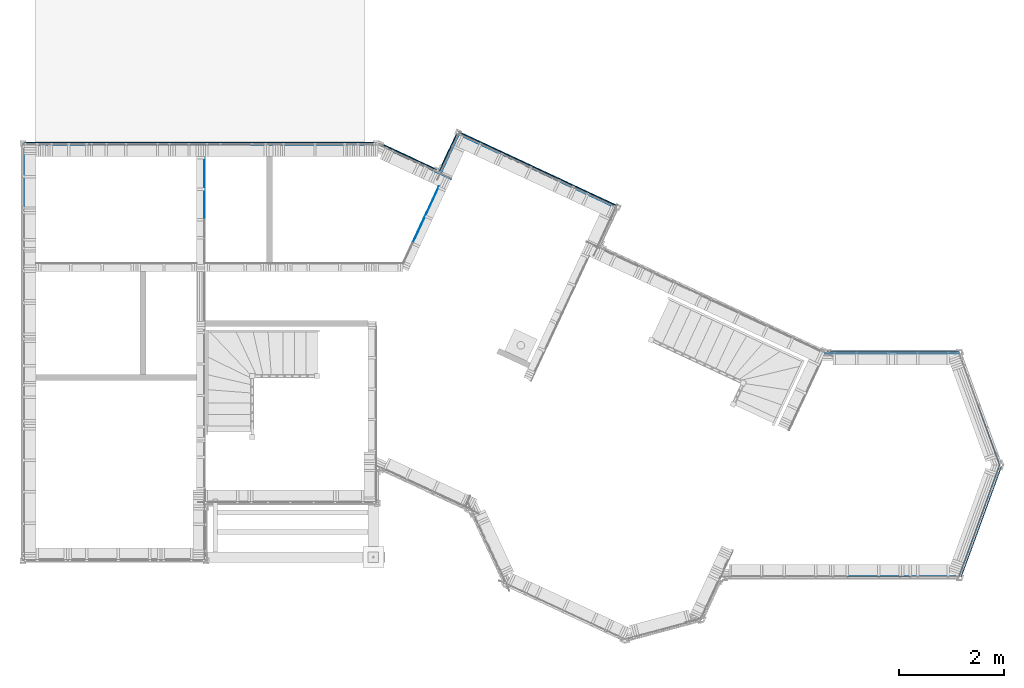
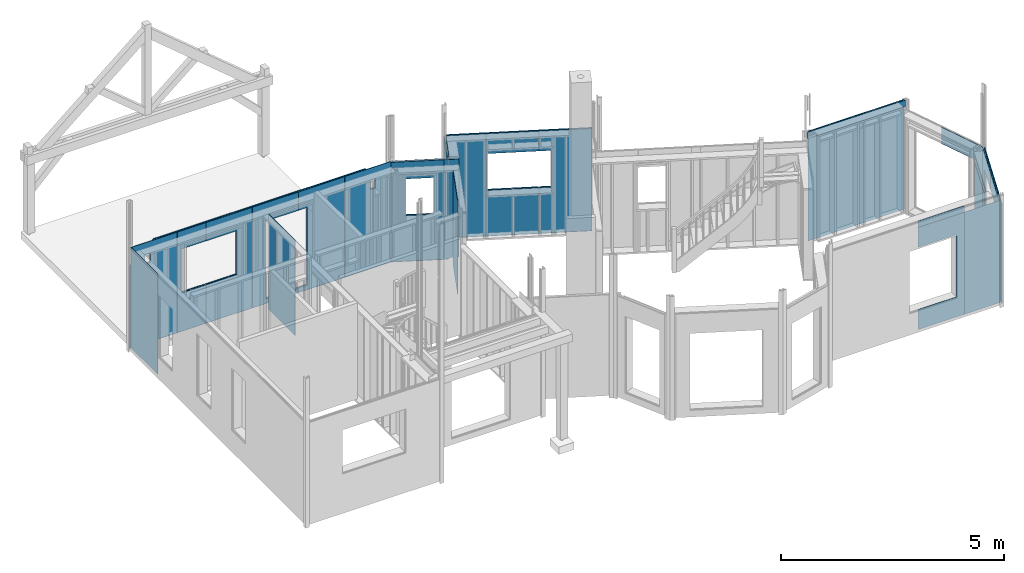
# One storey, part 26 of 34: 28 plates.
"""IFC2X3 building model written with IfcOpenShell, lengths in metres."""

from ifc_helpers import new_model, si_unit, direction, frame, origin_with_axes, place, context, subcontext, project, spatial, faceted_brep, material, element, save


model = new_model("IFC2X3")

# Units and contexts
model_context = context("Model", 3, precision=1e-06, world=origin_with_axes(), true_north=direction((0.0, 1.0, 0.0)))
body_context = subcontext(model_context, "Body", "Model", "MODEL_VIEW")
ifc_project = project(units=[si_unit("LENGTHUNIT", "METRE"), si_unit("AREAUNIT", "SQUARE_METRE"), si_unit("VOLUMEUNIT", "CUBIC_METRE"), si_unit("PLANEANGLEUNIT", "RADIAN")], contexts=[model_context])

# Site, building, storey
site_placement = place(None, origin_with_axes())
site = spatial("IfcSite", under=ifc_project, at=site_placement, CompositionType="ELEMENT")
building_placement = place(site_placement, origin_with_axes())
building = spatial("IfcBuilding", under=site, at=building_placement, Name="Building 1", CompositionType="ELEMENT")
storey_placement = place(building_placement, origin_with_axes())
storey = spatial("IfcBuildingStorey", under=building, at=storey_placement, Name="Rez de chaussée", CompositionType="ELEMENT", Elevation=0.0)

# Plates
ifc_material_1 = material(Name="Mélèze")
plate_1_placement = place(storey_placement, frame((7.317301, 7.6797433, -0.03), z_axis=(0.4226183, 0.9063078, 0.0), x_axis=(0.0, 0.0, 1.0)))
element("IfcPlate", 1, at=plate_1_placement, inside=storey, material=ifc_material_1, Name="Bardage", context=body_context, shape_type="Brep", body=[
    faceted_brep([(2.765, 0.5935712, -0.0105), (2.765, -0.5935712, -0.0105), (0.0, -0.5935712, -0.0105), (0.0, 0.5935712, -0.0105), (1.282, 0.3514288, -0.0105), (1.282, -0.2885712, -0.0105), (2.29, -0.2885712, -0.0105), (2.29, 0.3514288, -0.0105), (2.765, -0.5935712, 0.0105), (2.765, 0.5935712, 0.0105), (0.0, 0.5935712, 0.0105), (0.0, -0.5935712, 0.0105), (2.29, -0.2885712, 0.0105), (1.282, -0.2885712, 0.0105), (1.282, 0.3514288, 0.0105), (2.29, 0.3514288, 0.0105)], [[[0, 1, 2, 3], [4, 5, 6, 7]], [[8, 9, 10, 11], [12, 13, 14, 15]], [[8, 1, 0, 9]], [[1, 8, 11, 2]], [[9, 0, 3, 10]], [[2, 11, 10, 3]], [[14, 13, 5, 4]], [[12, 15, 7, 6]], [[15, 14, 4, 7]], [[13, 12, 6, 5]]]),
])
ifc_material_2 = material(Name="OSB")
plate_2_placement = place(storey_placement, frame((4.9431423, 7.902, 0.005), z_axis=(0.0, 1.0, 0.0), x_axis=(0.0, 0.0, 1.0)))
element("IfcPlate", 2, at=plate_2_placement, inside=storey, material=ifc_material_2, Name="Panneau de contreventement MFP", context=body_context, shape_type="Brep", body=[
    faceted_brep([(2.255, -0.598, 0.006), (2.255, -0.598, -0.006), (2.758, -0.598, -0.006), (2.758, -0.598, 0.006), (2.758, 0.598, -0.006), (2.758, 0.598, 0.006), (2.255, -0.3676424, -0.006), (0.124, -0.3676424, -0.006), (0.124, -0.598, -0.006), (0.0, -0.598, -0.006), (0.0, 0.598, -0.006), (2.255, -0.3676424, 0.006), (0.0, 0.598, 0.006), (0.0, -0.598, 0.006), (0.124, -0.598, 0.006), (0.124, -0.3676424, 0.006)], [[[0, 1, 2, 3]], [[3, 2, 4, 5]], [[2, 1, 6, 7, 8, 9, 10, 4]], [[1, 0, 11, 6]], [[0, 3, 5, 12, 13, 14, 15, 11]], [[8, 14, 13, 9]], [[9, 13, 12, 10]], [[14, 8, 7, 15]], [[11, 15, 7, 6]], [[10, 12, 5, 4]]]),
])
plate_3_placement = place(storey_placement, frame((2.5431423, 7.902, 0.005), z_axis=(0.0, 1.0, 0.0), x_axis=(0.0, 0.0, 1.0)))
element("IfcPlate", 3, at=plate_3_placement, inside=storey, material=ifc_material_2, Name="Panneau de contreventement MFP", context=body_context, shape_type="Brep", body=[
    faceted_brep([(1.047, -0.598, -0.006), (1.047, -0.598, 0.006), (0.0, -0.598, 0.006), (0.0, -0.598, -0.006), (0.0, 0.598, 0.006), (0.0, 0.598, -0.006), (1.047, 0.206232, 0.006), (2.255, 0.206232, 0.006), (2.255, -0.598, 0.006), (2.758, -0.598, 0.006), (2.758, 0.598, 0.006), (1.047, 0.206232, -0.006), (2.758, 0.598, -0.006), (2.758, -0.598, -0.006), (2.255, -0.598, -0.006), (2.255, 0.206232, -0.006)], [[[0, 1, 2, 3]], [[3, 2, 4, 5]], [[2, 1, 6, 7, 8, 9, 10, 4]], [[1, 0, 11, 6]], [[0, 3, 5, 12, 13, 14, 15, 11]], [[8, 14, 13, 9]], [[9, 13, 12, 10]], [[7, 6, 11, 15]], [[14, 8, 7, 15]], [[5, 4, 10, 12]]]),
])
plate_4_placement = place(storey_placement, frame((7.2856501, 7.6487121, 0.005), z_axis=(0.4226183, 0.9063078, 0.0), x_axis=(0.0, 0.0, 1.0)))
element("IfcPlate", 4, at=plate_4_placement, inside=storey, material=ifc_material_2, Name="Panneau de contreventement MFP", context=body_context, shape_type="Brep", body=[
    faceted_brep([(2.73, 0.598, -0.006), (2.73, -0.598, -0.006), (0.0, -0.598, -0.006), (0.0, 0.598, -0.006), (2.255, -0.273, -0.006), (2.255, 0.367, -0.006), (1.247, 0.367, -0.006), (1.247, -0.273, -0.006), (2.73, -0.598, 0.006), (2.73, 0.598, 0.006), (0.0, 0.598, 0.006), (0.0, -0.598, 0.006), (2.255, -0.273, 0.006), (1.247, -0.273, 0.006), (1.247, 0.367, 0.006), (2.255, 0.367, 0.006)], [[[0, 1, 2, 3], [4, 5, 6, 7]], [[8, 9, 10, 11], [12, 13, 14, 15]], [[1, 0, 9, 8]], [[9, 0, 3, 10]], [[2, 11, 10, 3]], [[1, 8, 11, 2]], [[14, 13, 7, 6]], [[12, 15, 5, 4]], [[15, 14, 6, 5]], [[13, 12, 4, 7]]]),
])
plate_5_placement = place(storey_placement, frame((1.5705712, 7.902, 0.005), z_axis=(0.0, 1.0, 0.0), x_axis=(0.0, 0.0, 1.0)))
element("IfcPlate", 5, at=plate_5_placement, inside=storey, material=ifc_material_2, Name="Panneau de contreventement MFP", context=body_context, shape_type="Brep", body=[
    faceted_brep([(2.758, -0.3705712, 0.006), (0.0, -0.3705712, 0.006), (0.0, -0.3705712, -0.006), (2.758, -0.3705712, -0.006), (0.0, 0.3705712, 0.006), (0.0, 0.3705712, -0.006), (2.758, 0.3705712, 0.006), (2.255, 0.3705712, 0.006), (2.255, -0.2611968, 0.006), (1.047, -0.2611968, 0.006), (1.047, 0.3705712, 0.006), (2.255, -0.2611968, -0.006), (1.047, -0.2611968, -0.006), (2.255, 0.3705712, -0.006), (2.758, 0.3705712, -0.006), (1.047, 0.3705712, -0.006)], [[[0, 1, 2, 3]], [[2, 1, 4, 5]], [[1, 0, 6, 7, 8, 9, 10, 4]], [[9, 8, 11, 12]], [[7, 13, 11, 8]], [[0, 3, 14, 6]], [[13, 7, 6, 14]], [[3, 2, 5, 15, 12, 11, 13, 14]], [[15, 10, 9, 12]], [[10, 15, 5, 4]]]),
])
plate_6_placement = place(storey_placement, frame((18.0054419, 0.251664, 0.005), z_axis=(0.9396926, -0.3420201, 0.0), x_axis=(0.0, 0.0, 1.0)))
element("IfcPlate", 6, at=plate_6_placement, inside=storey, material=ifc_material_2, Name="Panneau de contreventement MFP", context=body_context, shape_type="Brep", body=[
    faceted_brep([(2.255, 0.328, -0.006), (0.147, 0.328, -0.006), (0.147, -0.598, -0.006), (0.0, -0.598, -0.006), (0.0, 0.598, -0.006), (2.705, 0.598, -0.006), (2.705, -0.598, -0.006), (2.255, -0.598, -0.006), (0.147, -0.598, 0.006), (0.0, -0.598, 0.006), (0.0, 0.598, 0.006), (0.147, 0.328, 0.006), (2.255, 0.328, 0.006), (2.255, -0.598, 0.006), (2.705, -0.598, 0.006), (2.705, 0.598, 0.006)], [[[0, 1, 2, 3, 4, 5, 6, 7]], [[2, 8, 9, 3]], [[3, 9, 10, 4]], [[9, 8, 11, 12, 13, 14, 15, 10]], [[8, 2, 1, 11]], [[13, 7, 6, 14]], [[14, 6, 5, 15]], [[7, 13, 12, 0]], [[12, 11, 1, 0]], [[15, 5, 4, 10]]]),
])
plate_7_placement = place(storey_placement, frame((3.7431423, 7.902, 0.005), z_axis=(0.0, 1.0, 0.0), x_axis=(0.0, 0.0, 1.0)))
element("IfcPlate", 7, at=plate_7_placement, inside=storey, material=ifc_material_2, Name="Panneau de contreventement MFP", context=body_context, shape_type="Brep", body=[
    faceted_brep([(2.255, 0.598, -0.006), (2.758, 0.598, -0.006), (2.758, -0.598, -0.006), (0.0, -0.598, -0.006), (0.0, 0.598, -0.006), (0.124, 0.598, -0.006), (0.124, -0.2376424, -0.006), (2.255, -0.2376424, -0.006), (0.124, -0.2376424, 0.006), (2.255, -0.2376424, 0.006), (0.124, 0.598, 0.006), (0.0, 0.598, 0.006), (0.0, -0.598, 0.006), (2.758, -0.598, 0.006), (2.758, 0.598, 0.006), (2.255, 0.598, 0.006)], [[[0, 1, 2, 3, 4, 5, 6, 7]], [[8, 9, 7, 6]], [[5, 10, 8, 6]], [[10, 5, 4, 11]], [[3, 12, 11, 4]], [[2, 13, 12, 3]], [[14, 15, 9, 8, 10, 11, 12, 13]], [[15, 0, 7, 9]], [[1, 14, 13, 2]], [[0, 15, 14, 1]]]),
])
plate_8_placement = place(storey_placement, frame((17.3340394, -0.31422, 0.005), z_axis=(0.0, -1.0, 0.0), x_axis=(0.0, 0.0, 1.0)))
element("IfcPlate", 8, at=plate_8_placement, inside=storey, material=ifc_material_2, Name="Panneau de contreventement MFP", context=body_context, shape_type="Brep", body=[
    faceted_brep([(2.8, 0.4612362, 0.006), (2.8, -0.4612362, 0.006), (2.8, -0.4612362, -0.006), (2.8, 0.4612362, -0.006), (0.0, -0.4612362, 0.006), (0.0, -0.4612362, -0.006), (0.0, 0.4612362, 0.006), (0.0, 0.4612362, -0.006)], [[[0, 1, 2, 3]], [[2, 1, 4, 5]], [[1, 0, 6, 4]], [[0, 3, 7, 6]], [[3, 2, 5, 7]], [[6, 7, 5, 4]]]),
])
plate_9_placement = place(storey_placement, frame((3.3605712, 7.9435, -0.03), z_axis=(0.0, 1.0, 0.0), x_axis=(0.0, 0.0, 1.0)))
element("IfcPlate", 9, at=plate_9_placement, inside=storey, material=ifc_material_1, Name="Bardage", context=body_context, shape_type="Brep", body=[
    faceted_brep([(2.4605755, 2.9809288, 0.0105), (2.2005755, 2.9809288, 0.0105), (2.2005755, 2.9809288, -0.0105), (2.4605755, 2.9809288, -0.0105), (2.4605755, 2.8459288, 0.0105), (2.4605755, 2.8459288, -0.0105), (2.2005755, 2.8459288, 0.0105), (2.2005755, 2.8459288, -0.0105), (2.2724311, 3.3605712, 0.0105), (2.793, 2.7401813, 0.0105), (2.793, 2.7401813, -0.0105), (2.2724311, 3.3605712, -0.0105), (2.793, -2.7533237, 0.0105), (2.793, -2.7533237, -0.0105), (0.0, 3.3605712, 0.0105), (0.0, -3.3605712, 0.0105), (2.2834589, -3.3605712, 0.0105), (2.4605755, -2.9940712, 0.0105), (2.2005755, -2.9940712, 0.0105), (2.2005755, -2.8590712, 0.0105), (2.4605755, -2.8590712, 0.0105), (2.29, 0.1449288, 0.0105), (0.159, 0.1449288, 0.0105), (0.159, 1.2149288, 0.0105), (2.29, 1.2149288, 0.0105), (2.29, -2.0511968, 0.0105), (1.082, -2.0511968, 0.0105), (1.082, -0.6111968, 0.0105), (2.29, -0.6111968, 0.0105), (2.4605755, -2.8590712, -0.0105), (2.4605755, -2.9940712, -0.0105), (2.2834589, -3.3605712, -0.0105), (0.0, -3.3605712, -0.0105), (0.0, 3.3605712, -0.0105), (2.2005755, -2.9940712, -0.0105), (2.2005755, -2.8590712, -0.0105), (1.082, -0.6111968, -0.0105), (1.082, -2.0511968, -0.0105), (2.29, -2.0511968, -0.0105), (2.29, -0.6111968, -0.0105), (2.29, 0.1449288, -0.0105), (2.29, 1.2149288, -0.0105), (0.159, 1.2149288, -0.0105), (0.159, 0.1449288, -0.0105)], [[[0, 1, 2, 3]], [[4, 0, 3, 5]], [[6, 4, 5, 7]], [[1, 6, 7, 2]], [[8, 9, 10, 11]], [[10, 9, 12, 13]], [[9, 8, 14, 15, 16, 12], [4, 6, 1, 0], [17, 18, 19, 20], [21, 22, 23, 24], [25, 26, 27, 28]], [[17, 20, 29, 30]], [[11, 10, 13, 31, 32, 33], [7, 5, 3, 2], [34, 30, 29, 35], [36, 37, 38, 39], [40, 41, 42, 43]], [[19, 18, 34, 35]], [[20, 19, 35, 29]], [[12, 16, 31, 13]], [[31, 16, 15, 32]], [[8, 11, 33, 14]], [[14, 33, 32, 15]], [[28, 27, 36, 39]], [[25, 28, 39, 38]], [[26, 25, 38, 37]], [[27, 26, 37, 36]], [[24, 23, 42, 41]], [[21, 24, 41, 40]], [[22, 21, 40, 43]], [[23, 22, 43, 42]], [[18, 17, 30, 34]]]),
])
plate_10_placement = place(storey_placement, frame((0.006, 7.298, 0.005), z_axis=(-1.0, 0.0, 0.0), x_axis=(0.0, 0.0, 1.0)))
element("IfcPlate", 10, at=plate_10_placement, inside=storey, material=ifc_material_2, Name="Panneau de contreventement MFP", context=body_context, shape_type="Brep", body=[
    faceted_brep([(0.0, -0.598, 0.006), (0.0, -0.598, -0.006), (2.758, -0.598, -0.006), (2.758, -0.598, 0.006), (2.758, 0.598, -0.006), (2.758, 0.598, 0.006), (0.0, 0.598, 0.006), (0.0, 0.598, -0.006)], [[[0, 1, 2, 3]], [[3, 2, 4, 5]], [[0, 3, 5, 6]], [[2, 1, 7, 4]], [[1, 0, 6, 7]], [[7, 6, 5, 4]]]),
])
plate_11_placement = place(storey_placement, frame((16.2708032, -0.31422, 2.809), z_axis=(0.0, -1.0, 0.0), x_axis=(0.0, 0.0, 1.0)))
element("IfcPlate", 11, at=plate_11_placement, inside=storey, material=ifc_material_2, Name="Panneau de contreventement MFP", context=body_context, shape_type="Brep", body=[
    faceted_brep([(0.0, 0.598, 0.006), (0.0, 0.598, -0.006), (0.0, -0.598, -0.006), (0.0, -0.598, 0.006), (0.171, 0.598, -0.006), (0.171, -0.598, -0.006), (0.171, 0.598, 0.006), (0.171, -0.598, 0.006)], [[[0, 1, 2, 3]], [[2, 1, 4, 5]], [[1, 0, 6, 4]], [[0, 3, 7, 6]], [[7, 5, 4, 6]], [[3, 2, 5, 7]]]),
])
plate_12_placement = place(storey_placement, frame((15.2536781, 3.9337799, 2.8945), z_axis=(0.0, 1.0, 0.0), x_axis=(1.0, 0.0, 0.0)))
element("IfcPlate", 12, at=plate_12_placement, inside=storey, material=ifc_material_2, Name="Panneau de contreventement MFP", context=body_context, shape_type="Brep", body=[
    faceted_brep([(2.5415975, 0.0855, -0.006), (0.0, 0.0855, -0.006), (0.0, 0.0855, 0.006), (2.5415975, 0.0855, 0.006), (0.0, -0.0855, -0.006), (0.0, -0.0855, 0.006), (2.5415975, -0.0855, -0.006), (2.5415975, -0.0855, 0.006)], [[[0, 1, 2, 3]], [[2, 1, 4, 5]], [[1, 0, 6, 4]], [[0, 3, 7, 6]], [[3, 2, 5, 7]], [[5, 4, 6, 7]]]),
])
plate_13_placement = place(storey_placement, frame((9.6432708, 7.4631728, 0.005), z_axis=(0.4226183, 0.9063078, 0.0), x_axis=(0.0, 0.0, 1.0)))
element("IfcPlate", 13, at=plate_13_placement, inside=storey, material=ifc_material_2, Name="Panneau de contreventement MFP", context=body_context, shape_type="Brep", body=[
    faceted_brep([(0.0, -0.598, 0.006), (0.0, -0.598, -0.006), (2.8, -0.598, -0.006), (2.8, -0.598, 0.006), (2.255, 0.598, -0.006), (2.255, 0.598, 0.006), (2.8, 0.598, 0.006), (2.8, 0.598, -0.006), (2.255, -0.5716114, -0.006), (2.255, -0.5716114, 0.006), (1.247, -0.5716114, 0.006), (1.247, -0.5716114, -0.006), (1.247, 0.598, -0.006), (1.247, 0.598, 0.006), (0.0, 0.598, 0.006), (0.0, 0.598, -0.006)], [[[0, 1, 2, 3]], [[4, 5, 6, 7]], [[5, 4, 8, 9]], [[3, 2, 7, 6]], [[10, 9, 8, 11]], [[12, 13, 10, 11]], [[13, 14, 0, 3, 6, 5, 9, 10]], [[15, 12, 11, 8, 4, 7, 2, 1]], [[14, 15, 1, 0]], [[13, 12, 15, 14]]]),
])
plate_14_placement = place(storey_placement, frame((3.442, 7.078, 0.005), z_axis=(1.0, 0.0, 0.0), x_axis=(0.0, 0.0, 1.0)))
element("IfcPlate", 14, at=plate_14_placement, inside=storey, material=ifc_material_2, Name="Panneau de contreventement MFP", context=body_context, shape_type="Brep", body=[
    faceted_brep([(2.608, -0.598, 0.006), (2.608, -0.598, -0.006), (2.608, 0.598, -0.006), (2.608, 0.598, 0.006), (0.0, -0.598, 0.006), (0.0, 0.598, 0.006), (0.0, 0.598, -0.006), (0.0, -0.598, -0.006)], [[[0, 1, 2, 3]], [[4, 0, 3, 5]], [[6, 5, 3, 2]], [[7, 4, 5, 6]], [[1, 7, 6, 2]], [[1, 0, 4, 7]]]),
])
plate_15_placement = place(storey_placement, frame((9.7913178, 7.4399276, -0.03), z_axis=(0.4226183, 0.9063078, 0.0), x_axis=(0.0, 0.0, 1.0)))
element("IfcPlate", 15, at=plate_15_placement, inside=storey, material=ifc_material_1, Name="Bardage", context=body_context, shape_type="Brep", body=[
    faceted_brep([(0.0, 1.654, -0.0105), (0.0, 1.654, 0.0105), (2.835, 1.654, 0.0105), (2.835, 1.654, -0.0105), (0.0, -1.654, 0.0105), (2.835, -1.654, 0.0105), (2.29, -0.7156114, 0.0105), (1.282, -0.7156114, 0.0105), (1.282, 0.7243886, 0.0105), (2.29, 0.7243886, 0.0105), (0.0, -1.654, -0.0105), (2.835, -1.654, -0.0105), (1.282, -0.7156114, -0.0105), (2.29, -0.7156114, -0.0105), (2.29, 0.7243886, -0.0105), (1.282, 0.7243886, -0.0105)], [[[0, 1, 2, 3]], [[1, 4, 5, 2], [6, 7, 8, 9]], [[4, 10, 11, 5]], [[10, 0, 3, 11], [12, 13, 14, 15]], [[15, 14, 9, 8]], [[12, 15, 8, 7]], [[13, 12, 7, 6]], [[14, 13, 6, 9]], [[11, 3, 2, 5]], [[0, 10, 4, 1]]]),
])
plate_16_placement = place(storey_placement, frame((7.6498996, 6.5696764, 0.005), z_axis=(-0.9063078, 0.4226183, 0.0), x_axis=(0.0, 0.0, 1.0)))
element("IfcPlate", 16, at=plate_16_placement, inside=storey, material=ifc_material_2, Name="Panneau de contreventement MFP", context=body_context, shape_type="Brep", body=[
    faceted_brep([(2.58, -0.598, -0.006), (0.0, -0.598, -0.006), (0.0, 0.598, -0.006), (2.58, 0.598, -0.006), (2.58, 0.598, 0.006), (0.0, 0.598, 0.006), (0.0, -0.598, 0.006), (2.58, -0.598, 0.006)], [[[0, 1, 2, 3]], [[4, 3, 2, 5]], [[6, 7, 4, 5]], [[7, 0, 3, 4]], [[1, 6, 5, 2]], [[0, 7, 6, 1]]]),
])
plate_17_placement = place(storey_placement, frame((16.2708032, -0.31422, 0.005), z_axis=(0.0, -1.0, 0.0), x_axis=(0.0, 0.0, 1.0)))
element("IfcPlate", 17, at=plate_17_placement, inside=storey, material=ifc_material_2, Name="Panneau de contreventement MFP", context=body_context, shape_type="Brep", body=[
    faceted_brep([(2.8, -0.598, 0.006), (2.8, -0.598, -0.006), (2.8, 0.598, -0.006), (2.8, 0.598, 0.006), (0.0, -0.598, -0.006), (0.0, 0.598, -0.006), (0.547, 0.598, -0.006), (0.547, -0.3897333, -0.006), (2.255, -0.3897333, -0.006), (2.255, 0.598, -0.006), (0.0, -0.598, 0.006), (2.255, 0.598, 0.006), (2.255, -0.3897333, 0.006), (0.547, -0.3897333, 0.006), (0.547, 0.598, 0.006), (0.0, 0.598, 0.006)], [[[0, 1, 2, 3]], [[2, 1, 4, 5, 6, 7, 8, 9]], [[1, 0, 10, 4]], [[0, 3, 11, 12, 13, 14, 15, 10]], [[14, 6, 5, 15]], [[15, 5, 4, 10]], [[6, 14, 13, 7]], [[13, 12, 8, 7]], [[11, 9, 8, 12]], [[3, 2, 9, 11]]]),
])
plate_18_placement = place(storey_placement, frame((8.6862098, 7.9094577, 0.005), z_axis=(0.4226183, 0.9063078, 0.0), x_axis=(0.0, 0.0, 1.0)))
element("IfcPlate", 18, at=plate_18_placement, inside=storey, material=ifc_material_2, Name="Panneau de contreventement MFP", context=body_context, shape_type="Brep", body=[
    faceted_brep([(0.0, 0.454, -0.006), (0.0, 0.454, 0.006), (2.8, 0.454, 0.006), (2.8, 0.454, -0.006), (2.8, -0.454, 0.006), (2.8, -0.454, -0.006), (0.0, -0.454, -0.006), (0.0, -0.454, 0.006)], [[[0, 1, 2, 3]], [[3, 2, 4, 5]], [[0, 3, 5, 6]], [[2, 1, 7, 4]], [[5, 4, 7, 6]], [[1, 0, 6, 7]]]),
])
plate_19_placement = place(storey_placement, frame((8.0686187, 7.743285, -0.03), z_axis=(-0.9063078, 0.4226183, 0.0), x_axis=(0.0, 0.0, 1.0)))
element("IfcPlate", 19, at=plate_19_placement, inside=storey, material=ifc_material_1, Name="Bardage", context=body_context, shape_type="Brep", body=[
    faceted_brep([(0.0, 0.4056089, 0.0105), (0.0, -0.4056089, 0.0105), (2.835, -0.4056089, 0.0105), (2.835, 0.4056089, 0.0105), (0.0, -0.4056089, -0.0105), (2.835, -0.4056089, -0.0105), (0.0, 0.4056089, -0.0105), (2.835, 0.4056089, -0.0105)], [[[0, 1, 2, 3]], [[1, 4, 5, 2]], [[4, 6, 7, 5]], [[6, 0, 3, 7]], [[0, 6, 4, 1]], [[5, 7, 3, 2]]]),
])
plate_20_placement = place(storey_placement, frame((8.1051739, 7.7234805, 0.005), z_axis=(-0.9063078, 0.4226183, 0.0), x_axis=(0.0, 0.0, 1.0)))
element("IfcPlate", 20, at=plate_20_placement, inside=storey, material=ifc_material_2, Name="Panneau de contreventement MFP", context=body_context, shape_type="Brep", body=[
    faceted_brep([(2.8, 0.4081089, 0.006), (2.8, 0.4081089, -0.006), (0.0, 0.4081089, -0.006), (0.0, 0.4081089, 0.006), (0.0, -0.4081089, -0.006), (2.8, -0.4081089, -0.006), (0.0, -0.4081089, 0.006), (2.8, -0.4081089, 0.006)], [[[0, 1, 2, 3]], [[4, 2, 1, 5]], [[4, 6, 3, 2]], [[5, 7, 6, 4]], [[5, 1, 0, 7]], [[7, 0, 3, 6]]]),
])
plate_21_placement = place(storey_placement, frame((6.1431423, 7.902, 0.005), z_axis=(0.0, 1.0, 0.0), x_axis=(0.0, 0.0, 1.0)))
element("IfcPlate", 21, at=plate_21_placement, inside=storey, material=ifc_material_2, Name="Panneau de contreventement MFP", context=body_context, shape_type="Brep", body=[
    faceted_brep([(2.4255755, 0.1983576, 0.006), (2.1655755, 0.1983576, 0.006), (2.1655755, 0.1983576, -0.006), (2.4255755, 0.1983576, -0.006), (2.4255755, 0.0633576, 0.006), (2.4255755, 0.0633576, -0.006), (2.1655755, 0.0633576, 0.006), (2.1655755, 0.0633576, -0.006), (2.758, -0.598, -0.006), (2.758, -0.598, 0.006), (0.0, -0.598, 0.006), (0.0, -0.598, -0.006), (2.758, 0.598, 0.006), (0.0, 0.598, 0.006), (0.0, 0.598, -0.006), (2.758, 0.598, -0.006)], [[[0, 1, 2, 3]], [[4, 0, 3, 5]], [[6, 4, 5, 7]], [[1, 6, 7, 2]], [[8, 9, 10, 11]], [[10, 9, 12, 13], [4, 6, 1, 0]], [[11, 10, 13, 14]], [[9, 8, 15, 12]], [[8, 11, 14, 15], [7, 5, 3, 2]], [[12, 15, 14, 13]]]),
])
plate_22_placement = place(storey_placement, frame((16.5444769, 3.9752799, -0.03), z_axis=(0.0, 1.0, 0.0), x_axis=(0.0, 0.0, 1.0)))
element("IfcPlate", 22, at=plate_22_placement, inside=storey, material=ifc_material_1, Name="Bardage", context=body_context, shape_type="Brep", body=[
    faceted_brep([(3.005, 1.2507988, 0.0105), (3.005, 1.2507988, -0.0105), (0.0, 1.2507988, -0.0105), (0.0, 1.2507988, 0.0105), (3.005, -1.2507988, 0.0105), (0.0, -1.2507988, 0.0105), (3.005, -1.2507988, -0.0105), (0.0, -1.2507988, -0.0105)], [[[0, 1, 2, 3]], [[4, 0, 3, 5]], [[6, 4, 5, 7]], [[2, 7, 5, 3]], [[1, 6, 7, 2]], [[0, 4, 6, 1]]]),
])
plate_23_placement = place(storey_placement, frame((18.2231089, 0.7283613, -0.03), z_axis=(0.9396926, -0.3420201, 0.0), x_axis=(0.0, 0.0, 1.0)))
element("IfcPlate", 23, at=plate_23_placement, inside=storey, material=ifc_material_1, Name="Bardage", context=body_context, shape_type="Brep", body=[
    faceted_brep([(2.74, 1.1203954, 0.0105), (2.74, 1.1203954, -0.0105), (0.0, 1.1203954, -0.0105), (0.0, 1.1203954, 0.0105), (2.74, -1.1203954, 0.0105), (0.0, -1.1203954, 0.0105), (2.29, -0.898533, 0.0105), (0.182, -0.898533, 0.0105), (0.182, 0.8503954, 0.0105), (2.29, 0.8503954, 0.0105), (2.74, -1.1203954, -0.0105), (0.0, -1.1203954, -0.0105), (2.29, -0.898533, -0.0105), (2.29, 0.8503954, -0.0105), (0.182, 0.8503954, -0.0105), (0.182, -0.898533, -0.0105)], [[[0, 1, 2, 3]], [[4, 0, 3, 5], [6, 7, 8, 9]], [[10, 4, 5, 11]], [[11, 2, 1, 10], [12, 13, 14, 15]], [[2, 11, 5, 3]], [[0, 4, 10, 1]], [[14, 13, 9, 8]], [[15, 14, 8, 7]], [[12, 15, 7, 6]], [[13, 12, 6, 9]]]),
])
plate_24_placement = place(storey_placement, frame((18.3672747, 2.3737682, 0.005), z_axis=(0.9396926, 0.3420201, 0.0), x_axis=(0.0, 0.0, 1.0)))
element("IfcPlate", 24, at=plate_24_placement, inside=storey, material=ifc_material_2, Name="Panneau de contreventement MFP", context=body_context, shape_type="Brep", body=[
    faceted_brep([(0.147, -0.598, -0.006), (0.147, -0.598, 0.006), (0.0, -0.598, 0.006), (0.0, -0.598, -0.006), (0.0, 0.598, -0.006), (2.705, 0.598, -0.006), (2.705, -0.598, -0.006), (2.255, -0.598, -0.006), (2.255, 0.363, -0.006), (0.147, 0.363, -0.006), (0.0, 0.598, 0.006), (0.147, 0.363, 0.006), (2.255, 0.363, 0.006), (2.255, -0.598, 0.006), (2.705, -0.598, 0.006), (2.705, 0.598, 0.006)], [[[0, 1, 2, 3]], [[0, 3, 4, 5, 6, 7, 8, 9]], [[3, 2, 10, 4]], [[2, 1, 11, 12, 13, 14, 15, 10]], [[1, 0, 9, 11]], [[13, 7, 6, 14]], [[14, 6, 5, 15]], [[12, 11, 9, 8]], [[7, 13, 12, 8]], [[15, 5, 4, 10]]]),
])
plate_25_placement = place(storey_placement, frame((10.7308402, 6.9560309, 0.005), z_axis=(0.4226183, 0.9063078, 0.0), x_axis=(0.0, 0.0, 1.0)))
element("IfcPlate", 25, at=plate_25_placement, inside=storey, material=ifc_material_2, Name="Panneau de contreventement MFP", context=body_context, shape_type="Brep", body=[
    faceted_brep([(1.247, -0.598, -0.006), (1.247, -0.598, 0.006), (0.0, -0.598, 0.006), (0.0, -0.598, -0.006), (1.247, -0.3316114, 0.006), (2.255, -0.3316114, 0.006), (2.255, -0.598, 0.006), (2.8, -0.598, 0.006), (2.8, 0.598, 0.006), (0.0, 0.598, 0.006), (0.0, 0.598, -0.006), (1.247, -0.3316114, -0.006), (2.8, 0.598, -0.006), (2.8, -0.598, -0.006), (2.255, -0.3316114, -0.006), (2.255, -0.598, -0.006)], [[[0, 1, 2, 3]], [[2, 1, 4, 5, 6, 7, 8, 9]], [[3, 2, 9, 10]], [[1, 0, 11, 4]], [[8, 12, 10, 9]], [[7, 13, 12, 8]], [[5, 4, 11, 14]], [[15, 6, 5, 14]], [[6, 15, 13, 7]], [[0, 3, 10, 12, 13, 15, 14, 11]]]),
])
plate_26_placement = place(storey_placement, frame((18.3915704, 1.3125433, 0.005), z_axis=(0.9396926, -0.3420201, 0.0), x_axis=(0.0, 0.0, 1.0)))
element("IfcPlate", 26, at=plate_26_placement, inside=storey, material=ifc_material_2, Name="Panneau de contreventement MFP", context=body_context, shape_type="Brep", body=[
    faceted_brep([(0.147, 0.5269642, 0.006), (0.0, 0.5269642, 0.006), (0.0, -0.5269642, 0.006), (2.705, -0.5269642, 0.006), (2.705, 0.5269642, 0.006), (2.255, 0.5269642, 0.006), (2.255, -0.2919642, 0.006), (0.147, -0.2919642, 0.006), (2.705, -0.5269642, -0.006), (0.0, -0.5269642, -0.006), (0.147, 0.5269642, -0.006), (0.147, -0.2919642, -0.006), (2.255, -0.2919642, -0.006), (2.255, 0.5269642, -0.006), (0.0, 0.5269642, -0.006), (2.705, 0.5269642, -0.006)], [[[0, 1, 2, 3, 4, 5, 6, 7]], [[8, 3, 2, 9]], [[10, 0, 7, 11]], [[7, 6, 12, 11]], [[5, 13, 12, 6]], [[14, 10, 11, 12, 13, 15, 8, 9]], [[15, 4, 3, 8]], [[13, 5, 4, 15]], [[1, 14, 9, 2]], [[0, 10, 14, 1]]]),
])
plate_27_placement = place(storey_placement, frame((0.598, 7.902, 0.005), z_axis=(0.0, 1.0, 0.0), x_axis=(0.0, 0.0, 1.0)))
element("IfcPlate", 27, at=plate_27_placement, inside=storey, material=ifc_material_2, Name="Panneau de contreventement MFP", context=body_context, shape_type="Brep", body=[
    faceted_brep([(2.758, 0.598, 0.006), (0.0, 0.598, 0.006), (0.0, -0.598, 0.006), (2.758, -0.598, 0.006), (2.4255755, -0.2315, 0.006), (2.1655755, -0.2315, 0.006), (2.1655755, -0.0965, 0.006), (2.4255755, -0.0965, 0.006), (2.758, -0.598, -0.006), (0.0, -0.598, -0.006), (0.0, 0.598, -0.006), (2.758, 0.598, -0.006), (2.1655755, -0.2315, -0.006), (2.4255755, -0.2315, -0.006), (2.4255755, -0.0965, -0.006), (2.1655755, -0.0965, -0.006)], [[[0, 1, 2, 3], [4, 5, 6, 7]], [[8, 9, 10, 11], [12, 13, 14, 15]], [[14, 13, 4, 7]], [[12, 15, 6, 5]], [[15, 14, 7, 6]], [[13, 12, 5, 4]], [[11, 0, 3, 8]], [[1, 10, 9, 2]], [[3, 2, 9, 8]], [[11, 10, 1, 0]]]),
])
plate_28_placement = place(storey_placement, frame((7.9831184, 7.3234773, 0.005), z_axis=(0.4226183, 0.9063078, 0.0), x_axis=(0.0, 0.0, 1.0)))
element("IfcPlate", 28, at=plate_28_placement, inside=storey, material=ifc_material_2, Name="Panneau de contreventement MFP", context=body_context, shape_type="Brep", body=[
    faceted_brep([(0.04, 0.1675712, -0.006), (0.04, -0.0524288, -0.006), (0.04, -0.0524288, 0.006), (0.04, 0.1675712, 0.006), (0.0, -0.0524288, -0.006), (0.0, -0.0524288, 0.006), (2.73, 0.1675712, 0.006), (2.73, 0.1675712, -0.006), (0.0, -0.1675712, 0.006), (2.73, -0.1675712, 0.006), (2.73, -0.1675712, -0.006), (0.0, -0.1675712, -0.006)], [[[0, 1, 2, 3]], [[1, 4, 5, 2]], [[0, 3, 6, 7]], [[3, 2, 5, 8, 9, 6]], [[9, 10, 7, 6]], [[1, 0, 7, 10, 11, 4]], [[10, 9, 8, 11]], [[5, 4, 11, 8]]]),
])

save(model, "model.ifc")
